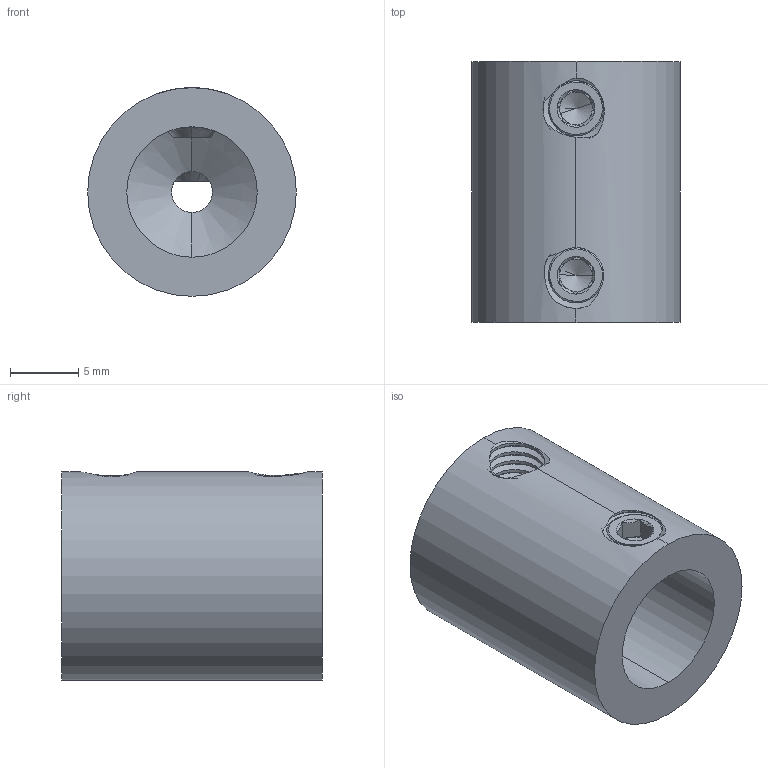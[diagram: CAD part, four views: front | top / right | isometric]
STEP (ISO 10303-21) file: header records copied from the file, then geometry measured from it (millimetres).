
FILE_DESCRIPTION (( 'STEP AP203' ), '1' );
FILE_NAME ('625196 assembly.STEP', '2016-08-26T13:51:29', ( '' ), ( '' ), 'SwSTEP 2.0', 'SolidWorks 2014', '' );
FILE_SCHEMA (( 'CONFIG_CONTROL_DESIGN' ));
Length unit declared in the file: inch
Products named in the file (3): 632134_91375A436; 625196; 625196 assembly
Assembly tree (3 placements, depth 2):
  625196 assembly
    625196
    632134_91375A436  x2
Bounding box: 15.24 x 19.05 x 15.24 mm (x, y, z)
Volume: 2598.8 mm3; surface area: 1977.6 mm2
Topology: 3 solids, 3 shells, 183 faces, 499 edges, 312 vertices
Faces by surface type: cylinder 96, cone 36, plane 30, bspline 21
Entity records: 11599 total; most frequent: CARTESIAN_POINT 8238, ORIENTED_EDGE 814, DIRECTION 453, EDGE_CURVE 407, VERTEX_POINT 263, AXIS2_PLACEMENT_3D 171, EDGE_LOOP 148, ADVANCED_FACE 145
